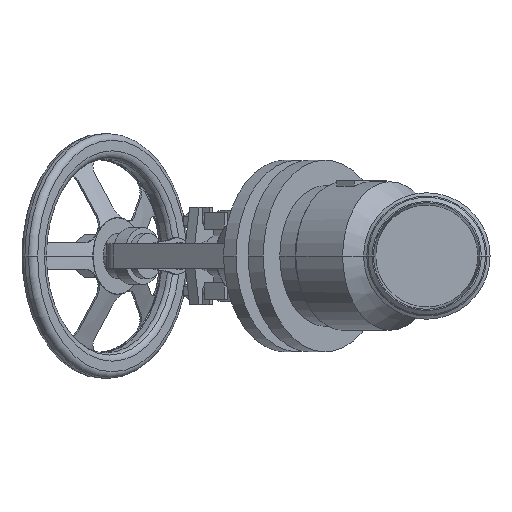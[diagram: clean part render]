
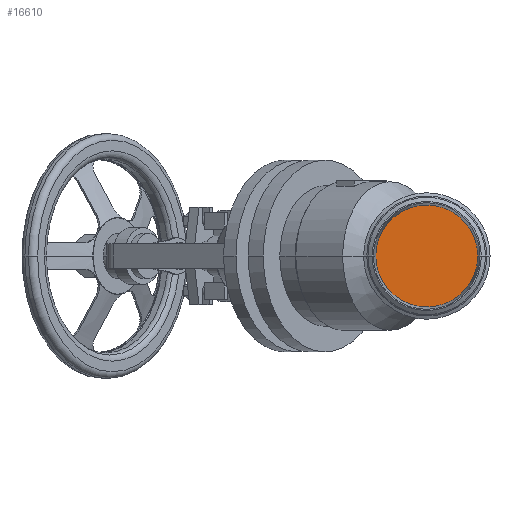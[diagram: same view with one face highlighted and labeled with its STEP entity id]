
A CAD part, left-side view. The second image highlights one B-rep face of the part: STEP entity #16610.
In plain terms, the highlighted planar face has unit normal (-1, 0, 0).
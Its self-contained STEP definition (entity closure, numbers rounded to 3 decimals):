
#3510=CARTESIAN_POINT('',(16.163,-62.5,0.))
;
#3520=VERTEX_POINT('',#3510);
#3570=CARTESIAN_POINT('',(16.163,0.,0.));
#3580=DIRECTION('',(-1.,0.,0.));
#3590=DIRECTION('',(0.,1.,0.));
#3600=AXIS2_PLACEMENT_3D('',#3570,#3580,#3590);
#3610=CIRCLE('',#3600,62.5);
#3620=CARTESIAN_POINT('',(16.163,62.5,0.));
#3630=VERTEX_POINT('',#3620);
#3640=EDGE_CURVE('',#3520,#3630,#3610,.T.);
#16510=CARTESIAN_POINT('',(16.163,31.25,0.)
);
#16520=DIRECTION('',(-1.,0.,0.));
#16530=DIRECTION('',(0.,1.,0.));
#16540=AXIS2_PLACEMENT_3D('',#16510,#16520,#16530);
#16550=PLANE('',#16540);
#16560=ORIENTED_EDGE('',*,*,#3640,.T.);
#16570=EDGE_CURVE('',#3630,#3520,#3610,.T.);
#16580=ORIENTED_EDGE('',*,*,#16570,.T.);
#16590=EDGE_LOOP('',(#16580,#16560));
#16600=FACE_OUTER_BOUND('',#16590,.T.);
#16610=ADVANCED_FACE('',(#16600),#16550,.T.);
